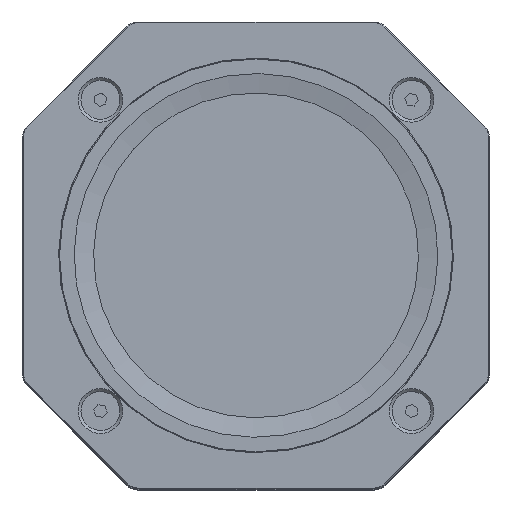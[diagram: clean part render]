
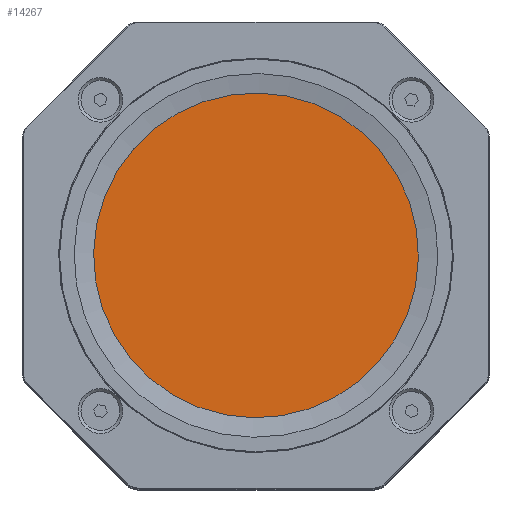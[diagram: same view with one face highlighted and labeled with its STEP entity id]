
A CAD part, top view. The second image highlights one B-rep face of the part: STEP entity #14267.
In plain terms, the highlighted planar face has unit normal (0, 0, 1) as drawn and (0, 1, 0) by its records, which use the part's own axes.
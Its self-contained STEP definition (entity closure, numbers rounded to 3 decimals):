
#1573=FACE_OUTER_BOUND('',#2430,.T.);
#2430=EDGE_LOOP('',(#12826));
#5662=CIRCLE('',#16130,42.75);
#6927=VERTEX_POINT('',#25748);
#8917=EDGE_CURVE('',#6927,#6927,#5662,.T.);
#12826=ORIENTED_EDGE('',*,*,#8917,.T.);
#13546=PLANE('',#16132);
#14267=ADVANCED_FACE('',(#1573),#13546,.T.);
#16130=AXIS2_PLACEMENT_3D('',#25749,#20224,#20225);
#16132=AXIS2_PLACEMENT_3D('',#25753,#20229,#20230);
#20224=DIRECTION('center_axis',(0.,1.,0.));
#20225=DIRECTION('ref_axis',(-1.,0.,0.));
#20229=DIRECTION('center_axis',(0.,1.,0.));
#20230=DIRECTION('ref_axis',(0.,0.,1.));
#25748=CARTESIAN_POINT('',(42.75,3.5,0.));
#25749=CARTESIAN_POINT('Origin',(0.,3.5,0.));
#25753=CARTESIAN_POINT('Origin',(0.,3.5,0.));
